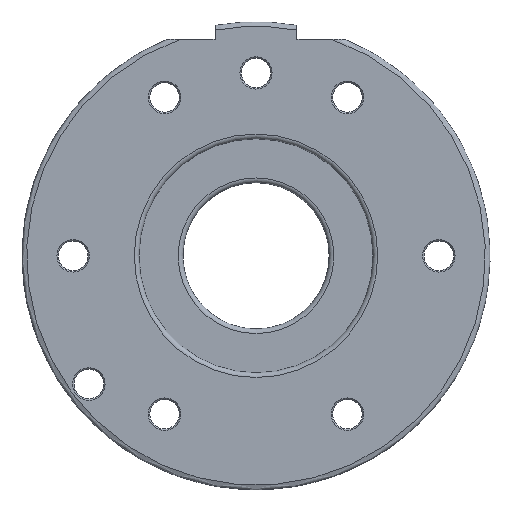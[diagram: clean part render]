
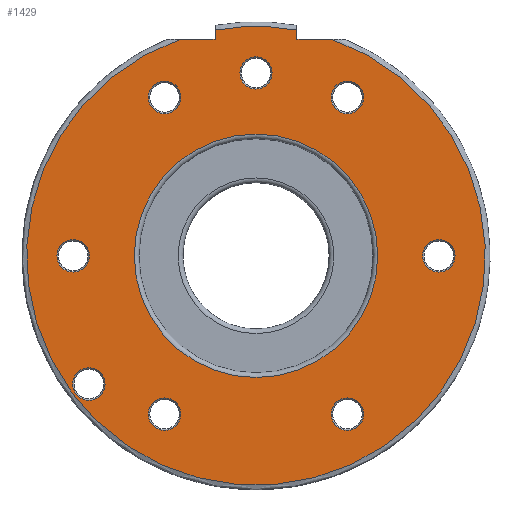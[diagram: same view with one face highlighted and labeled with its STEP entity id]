
A CAD part, front view. The second image highlights one B-rep face of the part: STEP entity #1429.
In plain terms, the highlighted planar face has unit normal (0, -1, 0).
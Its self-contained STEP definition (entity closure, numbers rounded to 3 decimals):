
#35=FACE_BOUND('',#287,.T.);
#36=FACE_BOUND('',#288,.T.);
#37=FACE_BOUND('',#289,.T.);
#38=FACE_BOUND('',#290,.T.);
#39=FACE_BOUND('',#291,.T.);
#40=FACE_BOUND('',#292,.T.);
#41=FACE_BOUND('',#293,.T.);
#42=FACE_BOUND('',#294,.T.);
#43=FACE_BOUND('',#295,.T.);
#86=CIRCLE('',#1544,41.6);
#91=CIRCLE('',#1549,41.6);
#92=CIRCLE('',#1551,78.4);
#93=CIRCLE('',#1552,78.4);
#94=CIRCLE('',#1553,5.55);
#95=CIRCLE('',#1554,5.553);
#96=CIRCLE('',#1555,5.553);
#97=CIRCLE('',#1556,5.553);
#98=CIRCLE('',#1557,5.553);
#99=CIRCLE('',#1558,5.553);
#100=CIRCLE('',#1559,5.553);
#101=CIRCLE('',#1560,5.5);
#209=FACE_OUTER_BOUND('',#286,.T.);
#286=EDGE_LOOP('',(#982,#983,#984,#985,#986,#987));
#287=EDGE_LOOP('',(#988));
#288=EDGE_LOOP('',(#989));
#289=EDGE_LOOP('',(#990));
#290=EDGE_LOOP('',(#991));
#291=EDGE_LOOP('',(#992));
#292=EDGE_LOOP('',(#993));
#293=EDGE_LOOP('',(#994));
#294=EDGE_LOOP('',(#995));
#295=EDGE_LOOP('',(#996,#997));
#396=LINE('',#2439,#469);
#397=LINE('',#2441,#470);
#398=LINE('',#2445,#471);
#399=LINE('',#2447,#472);
#469=VECTOR('',#1791,10.);
#470=VECTOR('',#1792,10.);
#471=VECTOR('',#1795,10.);
#472=VECTOR('',#1796,10.);
#589=VERTEX_POINT('',#2425);
#590=VERTEX_POINT('',#2426);
#594=VERTEX_POINT('',#2437);
#595=VERTEX_POINT('',#2438);
#596=VERTEX_POINT('',#2440);
#597=VERTEX_POINT('',#2442);
#598=VERTEX_POINT('',#2444);
#599=VERTEX_POINT('',#2446);
#600=VERTEX_POINT('',#2449);
#601=VERTEX_POINT('',#2451);
#602=VERTEX_POINT('',#2453);
#603=VERTEX_POINT('',#2455);
#604=VERTEX_POINT('',#2457);
#605=VERTEX_POINT('',#2459);
#606=VERTEX_POINT('',#2461);
#607=VERTEX_POINT('',#2463);
#743=EDGE_CURVE('',#589,#590,#86,.T.);
#748=EDGE_CURVE('',#590,#589,#91,.T.);
#749=EDGE_CURVE('',#594,#595,#396,.T.);
#750=EDGE_CURVE('',#595,#596,#397,.T.);
#751=EDGE_CURVE('',#597,#596,#92,.T.);
#752=EDGE_CURVE('',#597,#598,#398,.T.);
#753=EDGE_CURVE('',#598,#599,#399,.T.);
#754=EDGE_CURVE('',#594,#599,#93,.T.);
#755=EDGE_CURVE('',#600,#600,#94,.T.);
#756=EDGE_CURVE('',#601,#601,#95,.T.);
#757=EDGE_CURVE('',#602,#602,#96,.T.);
#758=EDGE_CURVE('',#603,#603,#97,.T.);
#759=EDGE_CURVE('',#604,#604,#98,.T.);
#760=EDGE_CURVE('',#605,#605,#99,.T.);
#761=EDGE_CURVE('',#606,#606,#100,.T.);
#762=EDGE_CURVE('',#607,#607,#101,.T.);
#982=ORIENTED_EDGE('',*,*,#749,.T.);
#983=ORIENTED_EDGE('',*,*,#750,.T.);
#984=ORIENTED_EDGE('',*,*,#751,.F.);
#985=ORIENTED_EDGE('',*,*,#752,.T.);
#986=ORIENTED_EDGE('',*,*,#753,.T.);
#987=ORIENTED_EDGE('',*,*,#754,.F.);
#988=ORIENTED_EDGE('',*,*,#755,.F.);
#989=ORIENTED_EDGE('',*,*,#756,.F.);
#990=ORIENTED_EDGE('',*,*,#757,.F.);
#991=ORIENTED_EDGE('',*,*,#758,.F.);
#992=ORIENTED_EDGE('',*,*,#759,.F.);
#993=ORIENTED_EDGE('',*,*,#760,.F.);
#994=ORIENTED_EDGE('',*,*,#761,.F.);
#995=ORIENTED_EDGE('',*,*,#762,.F.);
#996=ORIENTED_EDGE('',*,*,#743,.F.);
#997=ORIENTED_EDGE('',*,*,#748,.F.);
#1324=PLANE('',#1550);
#1429=ADVANCED_FACE('',(#209,#35,#36,#37,#38,#39,#40,#41,#42,#43),#1324,
 .T.);
#1544=AXIS2_PLACEMENT_3D('',#2427,#1777,#1778);
#1549=AXIS2_PLACEMENT_3D('',#2435,#1787,#1788);
#1550=AXIS2_PLACEMENT_3D('',#2436,#1789,#1790);
#1551=AXIS2_PLACEMENT_3D('',#2443,#1793,#1794);
#1552=AXIS2_PLACEMENT_3D('',#2448,#1797,#1798);
#1553=AXIS2_PLACEMENT_3D('',#2450,#1799,#1800);
#1554=AXIS2_PLACEMENT_3D('',#2452,#1801,#1802);
#1555=AXIS2_PLACEMENT_3D('',#2454,#1803,#1804);
#1556=AXIS2_PLACEMENT_3D('',#2456,#1805,#1806);
#1557=AXIS2_PLACEMENT_3D('',#2458,#1807,#1808);
#1558=AXIS2_PLACEMENT_3D('',#2460,#1809,#1810);
#1559=AXIS2_PLACEMENT_3D('',#2462,#1811,#1812);
#1560=AXIS2_PLACEMENT_3D('',#2464,#1813,#1814);
#1777=DIRECTION('center_axis',(0.,-1.,0.));
#1778=DIRECTION('ref_axis',(1.,0.,0.));
#1787=DIRECTION('center_axis',(0.,-1.,0.));
#1788=DIRECTION('ref_axis',(1.,0.,0.));
#1789=DIRECTION('center_axis',(0.,-1.,0.));
#1790=DIRECTION('ref_axis',(0.,0.,-1.));
#1791=DIRECTION('',(-1.,0.,0.));
#1792=DIRECTION('',(0.,0.,1.));
#1793=DIRECTION('center_axis',(0.,1.,0.));
#1794=DIRECTION('ref_axis',(1.,0.,0.));
#1795=DIRECTION('',(0.,0.,-1.));
#1796=DIRECTION('',(-1.,0.,0.));
#1797=DIRECTION('center_axis',(0.,1.,0.));
#1798=DIRECTION('ref_axis',(1.,0.,0.));
#1799=DIRECTION('center_axis',(0.,-1.,0.));
#1800=DIRECTION('ref_axis',(1.,0.,0.));
#1801=DIRECTION('center_axis',(0.,-1.,0.));
#1802=DIRECTION('ref_axis',(1.,0.,0.));
#1803=DIRECTION('center_axis',(0.,-1.,0.));
#1804=DIRECTION('ref_axis',(1.,0.,0.));
#1805=DIRECTION('center_axis',(0.,-1.,0.));
#1806=DIRECTION('ref_axis',(1.,0.,0.));
#1807=DIRECTION('center_axis',(0.,-1.,0.));
#1808=DIRECTION('ref_axis',(1.,0.,0.));
#1809=DIRECTION('center_axis',(0.,-1.,0.));
#1810=DIRECTION('ref_axis',(1.,0.,0.));
#1811=DIRECTION('center_axis',(0.,-1.,0.));
#1812=DIRECTION('ref_axis',(1.,0.,0.));
#1813=DIRECTION('center_axis',(0.,-1.,0.));
#1814=DIRECTION('ref_axis',(-1.,0.,0.));
#2425=CARTESIAN_POINT('',(-41.6,0.,0.));
#2426=CARTESIAN_POINT('',(0.,0.,-41.6));
#2427=CARTESIAN_POINT('Origin',(0.,0.,
0.));
#2435=CARTESIAN_POINT('Origin',(0.,0.,
0.));
#2436=CARTESIAN_POINT('Origin',(-60.,0.,0.));
#2437=CARTESIAN_POINT('',(25.895,0.,74.));
#2438=CARTESIAN_POINT('',(14.,0.,74.));
#2439=CARTESIAN_POINT('',(-13.288,0.,74.));
#2440=CARTESIAN_POINT('',(14.,0.,77.14));
#2441=CARTESIAN_POINT('',(14.,0.,40.));
#2442=CARTESIAN_POINT('',(-14.,0.,77.14));
#2443=CARTESIAN_POINT('Origin',(0.,0.,
0.));
#2444=CARTESIAN_POINT('',(-14.,0.,74.));
#2445=CARTESIAN_POINT('',(-14.,0.,40.));
#2446=CARTESIAN_POINT('',(-25.895,0.,74.));
#2447=CARTESIAN_POINT('',(-46.712,0.,74.));
#2448=CARTESIAN_POINT('Origin',(0.,0.,
0.));
#2449=CARTESIAN_POINT('',(-62.671,0.,-43.831));
#2450=CARTESIAN_POINT('Origin',(-57.121,0.,
-43.831));
#2451=CARTESIAN_POINT('',(56.947,0.,0.));
#2452=CARTESIAN_POINT('Origin',(62.5,0.,0.));
#2453=CARTESIAN_POINT('',(-68.053,0.,0.));
#2454=CARTESIAN_POINT('Origin',(-62.5,0.,0.));
#2455=CARTESIAN_POINT('',(25.697,0.,-54.127));
#2456=CARTESIAN_POINT('Origin',(31.25,0.,-54.127));
#2457=CARTESIAN_POINT('',(-36.803,0.,-54.127));
#2458=CARTESIAN_POINT('Origin',(-31.25,0.,-54.127));
#2459=CARTESIAN_POINT('',(-36.803,0.,54.127));
#2460=CARTESIAN_POINT('Origin',(-31.25,0.,54.127));
#2461=CARTESIAN_POINT('',(25.697,0.,54.127));
#2462=CARTESIAN_POINT('Origin',(31.25,0.,54.127));
#2463=CARTESIAN_POINT('',(5.5,0.,62.5));
#2464=CARTESIAN_POINT('Origin',(0.,0.,
62.5));
